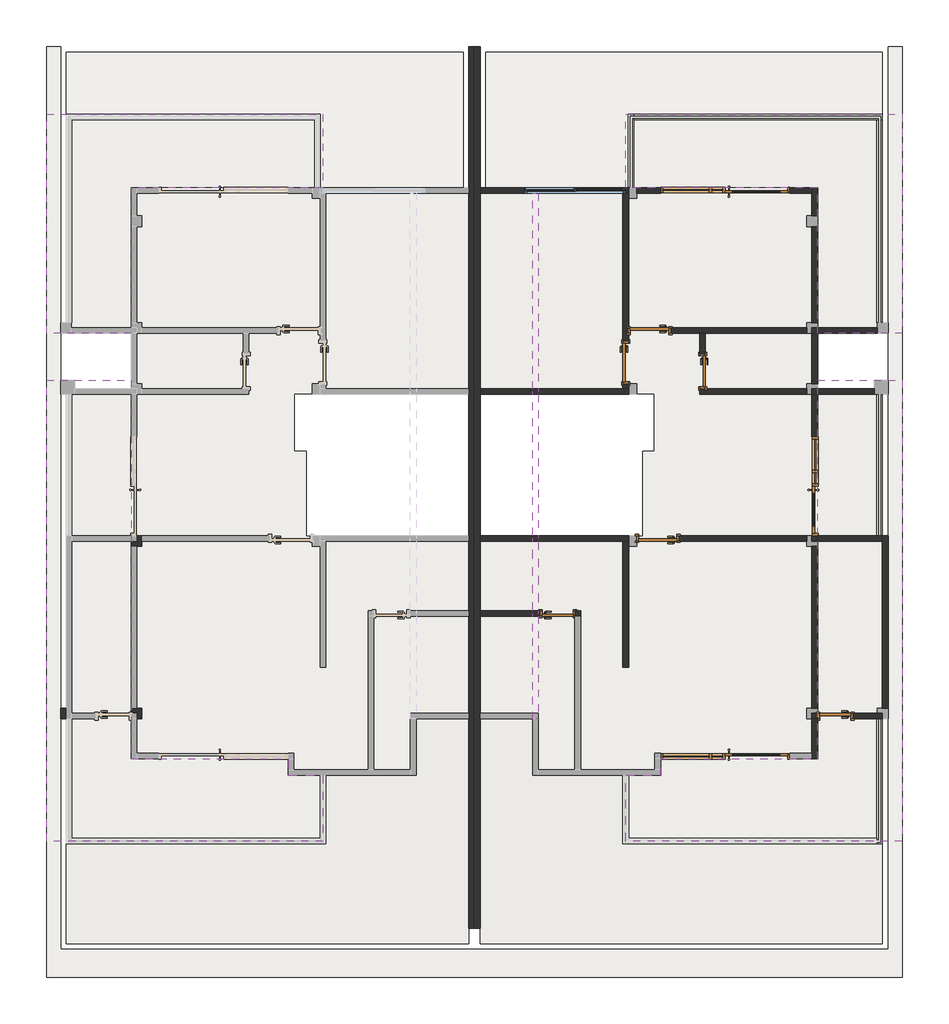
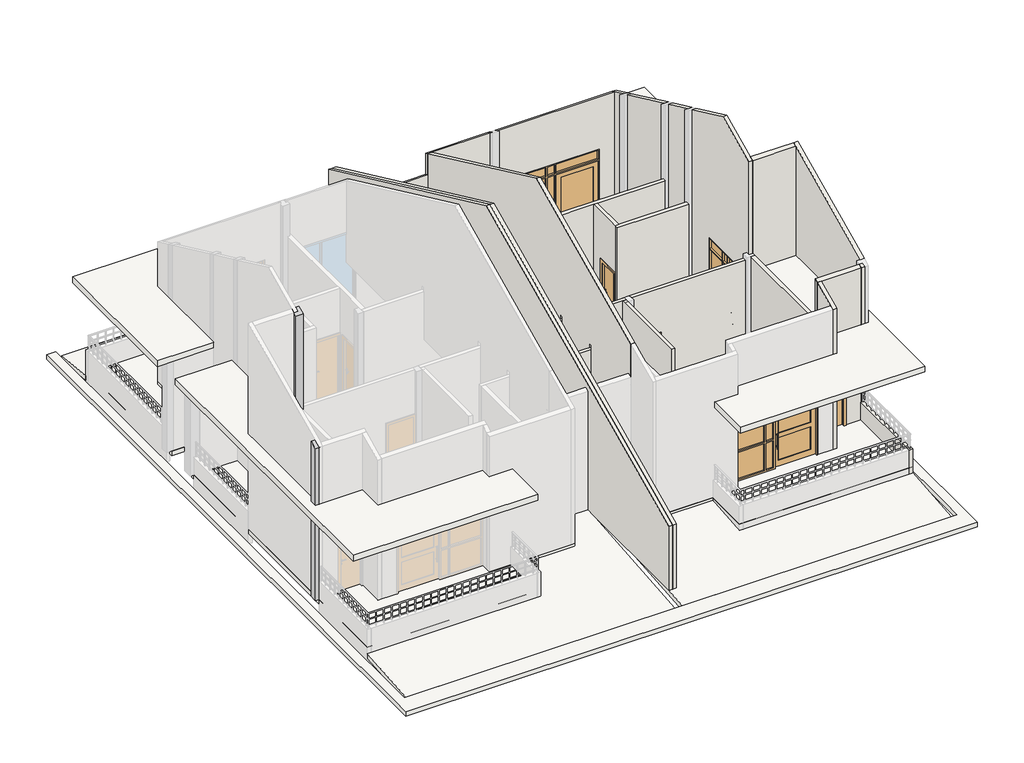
# One storey, part 2 of 6: 30 walls, 11 slabs, 9 doors, 3 columns, 1 window.
"""IFC4 building model written with IfcOpenShell, lengths in millimetres."""

from ifc_helpers import new_model, si_unit, frame, origin, place, context, project, spatial, polyline, outline, extrude, faceted_brep, transform, mapped, element, save
from components import m1_178dd28f, m1_b2f3dea5, m3_20c00246, m3_ef5b271f, mlc4_2eb1c427, mlc4_21794f08, mlc5_b93d954c, c3_0408065b

model = new_model("IFC4")

# Units and contexts
model_context = context("Model", 3, world=origin())
ifc_project = project(units=[si_unit("LENGTHUNIT", "METRE", prefix="MILLI")], contexts=[model_context])

# Site, building, storey
site = spatial("IfcSite", under=ifc_project)
building = spatial("IfcBuilding", under=site)
storey = spatial("IfcBuildingStorey", under=building, Name="标高 2", Elevation=3900.0)

# Columns
placement = place(None, origin())
element("IfcColumn", 1, ObjectType="混凝土 - 矩形 - 柱 : Z2", at=placement, inside=storey, context=model_context, shape_type="SweptSolid", body=[
    extrude(outline(polyline([(-5954.0293904, 2218.7732284), (-5954.0293904, 1988.7732284), (-6184.0293904, 1988.7732284), (-6184.0293904, 2218.7732284), (-5954.0293904, 2218.7732284)])), frame((0.0, 0.0, 3900.0), z_axis=(0.0, 0.0, 1.0), x_axis=(1.0, 0.0, 0.0)), (0.0, 0.0, 1.0), 3750.0),
])
element("IfcColumn", 2, ObjectType="混凝土 - 矩形 - 柱 : Z2", at=placement, inside=storey, context=model_context, shape_type="SweptSolid", body=[
    extrude(outline(polyline([(2218.7732284, 3900.0), (1988.7732284, 3900.0), (1988.7732284, 9008.8623857), (2218.7732284, 9116.1131471), (2218.7732284, 3900.0)])), frame((-7684.0293904, 0.0, 0.0), z_axis=(1.0, 0.0, 0.0), x_axis=(0.0, 1.0, 0.0)), (0.0, 0.0, 1.0), 230.0),
])
element("IfcColumn", 3, ObjectType="混凝土 - 矩形 - 柱 : Z2", at=placement, inside=storey, context=model_context, shape_type="SweptSolid", body=[
    extrude(outline(polyline([(5888.7732284, 3900.0), (5658.7732284, 3900.0), (5658.7732284, 10720.2114911), (5888.7732284, 10827.4622525), (5888.7732284, 3900.0)])), frame((-6184.0293904, 0.0, 0.0), z_axis=(1.0, 0.0, 0.0), x_axis=(0.0, 1.0, 0.0)), (0.0, 0.0, 1.0), 230.0),
])

# Doors
m1_shape = m1_178dd28f(model_context)
element("IfcDoor", 4, ObjectType="单嵌板木门 1 : M1", at=placement, inside=storey, context=model_context, shape_type="MappedRepresentation", body=[
    mapped(m1_shape, transform((4840.9706096, 10248.7732284, 3900.0), x_axis=(-1.0, 0.0, 0.0), y_axis=(0.0, -1.0, 0.0), z_axis=(0.0, 0.0, 1.0))),
])
element("IfcDoor", 5, ObjectType="单嵌板木门 1 : M1", at=placement, inside=storey, context=model_context, shape_type="MappedRepresentation", body=[
    mapped(m1_shape, transform((4335.9706096, 9568.7732284, 3900.0), x_axis=(0.0, -1.0, 0.0), y_axis=(1.0, 0.0, 0.0), z_axis=(0.0, 0.0, 1.0))),
])
m1_2_shape = m1_b2f3dea5(model_context)
element("IfcDoor", 6, ObjectType="单嵌板木门 1 : M1", at=placement, inside=storey, context=model_context, shape_type="MappedRepresentation", body=[
    mapped(m1_2_shape, transform((5015.9706096, 5828.7732284, 3900.0), x_axis=(-1.0, 0.0, 0.0), y_axis=(0.0, -1.0, 0.0), z_axis=(0.0, 0.0, 1.0))),
])
m3_shape = m3_20c00246(model_context)
element("IfcDoor", 7, ObjectType="单嵌板木门 1 : M3", at=placement, inside=storey, context=model_context, shape_type="MappedRepresentation", body=[
    mapped(m3_shape, transform((5970.9706096, 9383.7732284, 3900.0), x_axis=(0.0, -1.0, 0.0), y_axis=(1.0, 0.0, 0.0), z_axis=(0.0, 0.0, 1.0))),
])
m3_2_shape = m3_ef5b271f(model_context)
element("IfcDoor", 8, ObjectType="单嵌板木门 1 : M3", at=placement, inside=storey, context=model_context, shape_type="MappedRepresentation", body=[
    mapped(m3_2_shape, transform((2885.9706096, 4228.7732284, 3900.0), x_axis=(1.0, 0.0, 0.0), y_axis=(0.0, 1.0, 0.0), z_axis=(0.0, 0.0, 1.0))),
])
element("IfcDoor", 9, ObjectType="单嵌板木门 1 : M3", at=placement, inside=storey, context=model_context, shape_type="MappedRepresentation", body=[
    mapped(m3_2_shape, transform((8790.9706096, 2048.7732284, 3900.0), x_axis=(-1.0, 0.0, 0.0), y_axis=(0.0, -1.0, 0.0), z_axis=(0.0, 0.0, 1.0))),
])
mlc4_shape = mlc4_2eb1c427(model_context)
element("IfcDoor", 10, ObjectType="单嵌板连窗玻璃门 1 : MLC4", at=placement, inside=storey, context=model_context, shape_type="MappedRepresentation", body=[
    mapped(mlc4_shape, transform((6450.9706096, 1198.7732284, 3900.0), x_axis=(-1.0, 0.0, 0.0), y_axis=(0.0, -1.0, 0.0), z_axis=(0.0, 0.0, 1.0))),
])
mlc4_2_shape = mlc4_21794f08(model_context)
element("IfcDoor", 11, ObjectType="单嵌板连窗玻璃门 1 : MLC4", at=placement, inside=storey, context=model_context, shape_type="MappedRepresentation", body=[
    mapped(mlc4_2_shape, transform((6450.9706096, 13228.7732284, 3900.0), x_axis=(-1.0, 0.0, 0.0), y_axis=(0.0, -1.0, 0.0), z_axis=(0.0, 0.0, 1.0))),
])
mlc5_shape = mlc5_b93d954c(model_context)
element("IfcDoor", 12, ObjectType="单嵌板连窗玻璃门 1 : MLC5", at=placement, inside=storey, context=model_context, shape_type="MappedRepresentation", body=[
    mapped(mlc5_shape, transform((8355.9706096, 6938.7732284, 3900.0), x_axis=(0.0, 1.0, 0.0), y_axis=(-1.0, 0.0, 0.0), z_axis=(0.0, 0.0, 1.0))),
])

# Slabs
element("IfcSlab", 13, ObjectType="常规 - 150mm", at=placement, inside=storey, context=model_context, shape_type="SweptSolid", body=[
    extrude(outline(polyline([(-7684.0293904, -2911.2267716), (9915.9706096, -2911.2267716), (9915.9706096, 16288.7732284), (10215.9706096, 16288.7732284), (10215.9706096, -3511.2267716), (-7984.0293904, -3511.2267716), (-7984.0293904, 16288.7732284), (-7684.0293904, 16288.7732284), (-7684.0293904, -2911.2267716)])), frame((0.0, 0.0, 3450.0), z_axis=(0.0, 0.0, 1.0), x_axis=(1.0, 0.0, 0.0)), (0.0, 0.0, 1.0), 150.0),
])
element("IfcSlab", 14, ObjectType="常规 - 150mm", at=placement, inside=storey, context=model_context, shape_type="SweptSolid", body=[
    extrude(outline(polyline([(1115.9706096, 13288.7732284), (8415.9706096, 13288.7732284), (8415.9706096, 9003.7732284), (9795.9706096, 9003.7732284), (9795.9706096, -671.2267716), (4275.9706096, -671.2267716), (4275.9706096, 788.7732284), (2355.9706096, 788.7732284), (2355.9706096, 1988.7732284), (1115.9706096, 1988.7732284), (-124.0293904, 1988.7732284), (-124.0293904, 788.7732284), (-2044.0293904, 788.7732284), (-2044.0293904, -671.2267716), (-7564.0293904, -671.2267716), (-7564.0293904, 9003.7732284), (-6184.0293904, 9003.7732284), (-6184.0293904, 13288.7732284), (1115.9706096, 13288.7732284)]), holes=[polyline([(995.9706096, 5888.7732284), (995.9706096, 8888.7732284), (-2704.0293904, 8888.7732284), (-2704.0293904, 7688.7732284), (-2454.0293904, 7688.7732284), (-2454.0293904, 7088.7732284), (-2454.0293904, 5888.7732284), (995.9706096, 5888.7732284)]), polyline([(1235.9706096, 5888.7732284), (4685.9706096, 5888.7732284), (4685.9706096, 7088.7732284), (4685.9706096, 7688.7732284), (4935.9706096, 7688.7732284), (4935.9706096, 8888.7732284), (1235.9706096, 8888.7732284), (1235.9706096, 5888.7732284)])]), frame((0.0, 0.0, 3750.0), z_axis=(0.0, 0.0, 1.0), x_axis=(1.0, 0.0, 0.0)), (0.0, 0.0, 1.0), 150.0),
])
element("IfcSlab", 15, ObjectType="常规 - 150mm", at=placement, inside=storey, context=model_context, shape_type="SweptSolid", body=[
    extrude(outline(polyline([(-2159.0293904, 14848.7732284), (-2159.0293904, 13288.7732284), (-6184.0293904, 13288.7732284), (-6184.0293904, 10308.7732284), (-7454.0293904, 10308.7732284), (-7454.0293904, 10418.7732284), (-7564.0293904, 10418.7732284), (-7564.0293904, 14848.7732284), (-2159.0293904, 14848.7732284)])), frame((0.0, 0.0, 3650.0), z_axis=(0.0, 0.0, 1.0), x_axis=(1.0, 0.0, 0.0)), (0.0, 0.0, 1.0), 150.0),
    extrude(outline(polyline([(4390.9706096, 14848.7732284), (9795.9706096, 14848.7732284), (9795.9706096, 10418.7732284), (9685.9706096, 10418.7732284), (9685.9706096, 10308.7732284), (8415.9706096, 10308.7732284), (8415.9706096, 13288.7732284), (4390.9706096, 13288.7732284), (4390.9706096, 14848.7732284)])), frame((0.0, 0.0, 3650.0), z_axis=(0.0, 0.0, 1.0), x_axis=(1.0, 0.0, 0.0)), (0.0, 0.0, 1.0), 150.0),
])
element("IfcSlab", 16, ObjectType="常规 - 150mm", at=placement, inside=storey, context=model_context, shape_type="Brep", body=[
    faceted_brep([(875.9706096, 16168.7732284, 3349.4270244), (875.9706096, 13288.7732284, 3601.3943753), (-2159.0293904, 13288.7732284, 3601.3943753), (-2159.0293904, 14848.7732284, 3464.9120602), (-7564.0293904, 14848.7732284, 3464.9120602), (-7564.0293904, 16168.7732284, 3349.4270244), (875.9706096, 16168.7732284, 3500.0), (-7564.0293904, 16168.7732284, 3500.0), (-7564.0293904, 14848.7732284, 3615.4850359), (-2159.0293904, 14848.7732284, 3615.4850359), (-2159.0293904, 13288.7732284, 3751.967351), (875.9706096, 13288.7732284, 3751.967351)], [[[0, 1, 2, 3, 4, 5]], [[6, 7, 8, 9, 10, 11]], [[1, 0, 6, 11]], [[2, 1, 11, 10]], [[3, 2, 10, 9]], [[4, 3, 9, 8]], [[5, 4, 8, 7]], [[0, 5, 7, 6]]]),
])
element("IfcSlab", 17, ObjectType="常规 - 150mm", at=placement, inside=storey, context=model_context, shape_type="Brep", body=[
    faceted_brep([(1355.9706096, 16168.7732284, 3349.4270244), (9795.9706096, 16168.7732284, 3349.4270244), (9795.9706096, 14848.7732284, 3464.9120602), (4390.9706096, 14848.7732284, 3464.9120602), (4390.9706096, 13288.7732284, 3601.3943753), (1355.9706096, 13288.7732284, 3601.3943753), (1355.9706096, 16168.7732284, 3500.0), (1355.9706096, 13288.7732284, 3751.967351), (4390.9706096, 13288.7732284, 3751.967351), (4390.9706096, 14848.7732284, 3615.4850359), (9795.9706096, 14848.7732284, 3615.4850359), (9795.9706096, 16168.7732284, 3500.0)], [[[0, 1, 2, 3, 4, 5]], [[6, 7, 8, 9, 10, 11]], [[0, 5, 7, 6]], [[5, 4, 8, 7]], [[4, 3, 9, 8]], [[3, 2, 10, 9]], [[2, 1, 11, 10]], [[1, 0, 6, 11]]]),
])
element("IfcSlab", 18, ObjectType="常规 - 150mm", at=placement, inside=storey, context=model_context, shape_type="Brep", body=[
    faceted_brep([(-7564.0293904, -2791.2267716, 3349.4270244), (-7564.0293904, -671.2267716, 3534.902991), (-2044.0293904, -671.2267716, 3534.902991), (-2044.0293904, 788.7732284, 3662.6364398), (-124.0293904, 788.7732284, 3662.6364398), (-124.0293904, 1988.7732284, 3767.622836), (995.9706096, 1988.7732284, 3767.622836), (995.9706096, -2791.2267716, 3349.4270244), (-7564.0293904, -2791.2267716, 3500.0), (995.9706096, -2791.2267716, 3500.0), (995.9706096, 1988.7732284, 3918.1958117), (-124.0293904, 1988.7732284, 3918.1958117), (-124.0293904, 788.7732284, 3813.2094154), (-2044.0293904, 788.7732284, 3813.2094154), (-2044.0293904, -671.2267716, 3685.4759667), (-7564.0293904, -671.2267716, 3685.4759667)], [[[0, 1, 2, 3, 4, 5, 6, 7]], [[8, 9, 10, 11, 12, 13, 14, 15]], [[1, 0, 8, 15]], [[2, 1, 15, 14]], [[3, 2, 14, 13]], [[4, 3, 13, 12]], [[5, 4, 12, 11]], [[6, 5, 11, 10]], [[7, 6, 10, 9]], [[0, 7, 9, 8]]]),
])
element("IfcSlab", 19, ObjectType="常规 - 150mm", at=placement, inside=storey, context=model_context, shape_type="Brep", body=[
    faceted_brep([(9795.9706096, -2791.2267716, 3349.4270244), (1235.9706096, -2791.2267716, 3349.4270244), (1235.9706096, 1988.7732284, 3767.622836), (2355.9706096, 1988.7732284, 3767.622836), (2355.9706096, 788.7732284, 3662.6364398), (4275.9706096, 788.7732284, 3662.6364398), (4275.9706096, -671.2267716, 3534.902991), (9795.9706096, -671.2267716, 3534.902991), (9795.9706096, -2791.2267716, 3500.0), (9795.9706096, -671.2267716, 3685.4759667), (4275.9706096, -671.2267716, 3685.4759667), (4275.9706096, 788.7732284, 3813.2094154), (2355.9706096, 788.7732284, 3813.2094154), (2355.9706096, 1988.7732284, 3918.1958117), (1235.9706096, 1988.7732284, 3918.1958117), (1235.9706096, -2791.2267716, 3500.0)], [[[0, 1, 2, 3, 4, 5, 6, 7]], [[8, 9, 10, 11, 12, 13, 14, 15]], [[0, 7, 9, 8]], [[7, 6, 10, 9]], [[6, 5, 11, 10]], [[5, 4, 12, 11]], [[4, 3, 13, 12]], [[3, 2, 14, 13]], [[2, 1, 15, 14]], [[1, 0, 8, 15]]]),
])
element("IfcSlab", 20, ObjectType="常规 - 200mm", at=placement, inside=storey, context=model_context, shape_type="SweptSolid", body=[
    extrude(outline(polyline([(-2104.0293904, 14848.7732284), (-2104.0293904, 13288.7732284), (-6184.0293904, 13288.7732284), (-6184.0293904, 10188.7732284), (-7984.0293904, 10188.7732284), (-7984.0293904, 14848.7732284), (-2104.0293904, 14848.7732284)])), frame((0.0, 0.0, 6900.0), z_axis=(0.0, 0.0, 1.0), x_axis=(1.0, 0.0, 0.0)), (0.0, 0.0, 1.0), 200.0),
])
element("IfcSlab", 21, ObjectType="常规 - 200mm", at=placement, inside=storey, context=model_context, shape_type="SweptSolid", body=[
    extrude(outline(polyline([(-7984.0293904, 9188.7732284), (-6184.0293904, 9188.7732284), (-6184.0293904, 1138.7732284), (-2844.0293904, 1138.7732284), (-2844.0293904, 788.7732284), (-2104.0293904, 788.7732284), (-2104.0293904, -611.2267716), (-7984.0293904, -611.2267716), (-7984.0293904, 9188.7732284)])), frame((0.0, 0.0, 6900.0), z_axis=(0.0, 0.0, 1.0), x_axis=(1.0, 0.0, 0.0)), (0.0, 0.0, 1.0), 200.0),
])
element("IfcSlab", 22, ObjectType="常规 - 200mm", at=placement, inside=storey, context=model_context, shape_type="SweptSolid", body=[
    extrude(outline(polyline([(4335.9706096, 14848.7732284), (10215.9706096, 14848.7732284), (10215.9706096, 10188.7732284), (8415.9706096, 10188.7732284), (8415.9706096, 13288.7732284), (4335.9706096, 13288.7732284), (4335.9706096, 14848.7732284)])), frame((0.0, 0.0, 6900.0), z_axis=(0.0, 0.0, 1.0), x_axis=(1.0, 0.0, 0.0)), (0.0, 0.0, 1.0), 200.0),
])
element("IfcSlab", 23, ObjectType="常规 - 200mm", at=placement, inside=storey, context=model_context, shape_type="SweptSolid", body=[
    extrude(outline(polyline([(10215.9706096, 9188.7732284), (10215.9706096, -611.2267716), (4335.9706096, -611.2267716), (4335.9706096, 788.7732284), (5075.9706096, 788.7732284), (5075.9706096, 1138.7732284), (8415.9706096, 1138.7732284), (8415.9706096, 9188.7732284), (10215.9706096, 9188.7732284)])), frame((0.0, 0.0, 6900.0), z_axis=(0.0, 0.0, 1.0), x_axis=(1.0, 0.0, 0.0)), (0.0, 0.0, 1.0), 200.0),
])

# Walls
element("IfcWall", 24, ObjectType="墙", at=placement, inside=storey, context=model_context, shape_type="Brep", body=[
    faceted_brep([(1235.9706096, -2461.2267716, 3900.0), (1235.9706096, 1988.7732284, 3900.0), (1235.9706096, 2108.7732284, 3900.0), (1235.9706096, 4168.7732284, 3900.0), (1235.9706096, 4288.7732284, 3900.0), (1235.9706096, 5768.7732284, 3900.0), (1235.9706096, 5888.7732284, 3900.0), (1235.9706096, 8888.7732284, 3900.0), (1235.9706096, 9008.7732284, 3900.0), (1235.9706096, 13168.7732284, 3900.0), (1235.9706096, 13288.7732284, 3900.0), (1235.9706096, 16288.7732284, 3900.0), (1235.9706096, 16288.7732284, 6697.0), (1235.9706096, 7602.1599499, 10747.6342952), (1235.9706096, -2461.2267716, 6055.0), (1115.9706096, -2461.2267716, 3900.0), (1115.9706096, -2461.2267716, 6055.0), (1115.9706096, 7602.1599499, 10747.6342952), (1115.9706096, 16288.7732284, 6697.0), (1115.9706096, 16288.7732284, 3900.0)], [[[0, 1, 2, 3, 4, 5, 6, 7, 8, 9, 10, 11, 12, 13, 14]], [[15, 16, 17, 18, 19]], [[11, 10, 9, 8, 7, 6, 5, 4, 3, 2, 1, 0, 15, 19]], [[12, 11, 19, 18]], [[0, 14, 16, 15]], [[13, 12, 18, 17]], [[14, 13, 17, 16]]]),
])
element("IfcWall", 25, ObjectType="墙", at=placement, inside=storey, context=model_context, shape_type="Brep", body=[
    faceted_brep([(8295.9706096, 10188.7732284, 3900.0), (8415.9706096, 10188.7732284, 3900.0), (9685.9706096, 10188.7732284, 3900.0), (9685.9706096, 10188.7732284, 6900.0), (8415.9706096, 10188.7732284, 6900.0), (8295.9706096, 10188.7732284, 6900.0), (8295.9706096, 10308.7732284, 3900.0), (8295.9706096, 10308.7732284, 6900.0), (8415.9706096, 10308.7732284, 6900.0), (9685.9706096, 10308.7732284, 6900.0), (9685.9706096, 10308.7732284, 3900.0)], [[[0, 1, 2, 3, 4, 5]], [[6, 7, 8, 9, 10]], [[2, 1, 0, 6, 10]], [[3, 2, 10, 9]], [[0, 5, 7, 6]], [[5, 4, 8, 7]], [[4, 3, 9, 8]]]),
])
element("IfcWall", 26, ObjectType="墙", at=placement, inside=storey, context=model_context, shape_type="SweptSolid", body=[
    extrude(outline(polyline([(10418.7732284, 3900.0), (10418.7732284, 9927.4884723), (12458.7732284, 8976.2208496), (12458.7732284, 3900.0), (10418.7732284, 3900.0)])), frame((8295.9706096, 0.0, 0.0), z_axis=(1.0, 0.0, 0.0), x_axis=(0.0, 1.0, 0.0)), (0.0, 0.0, 1.0), 120.0),
])
element("IfcWall", 27, ObjectType="墙", at=placement, inside=storey, context=model_context, shape_type="Brep", body=[
    faceted_brep([(8415.9706096, 12688.7732284, 3900.0), (8415.9706096, 13288.7732284, 3900.0), (8415.9706096, 13288.7732284, 8589.1854934), (8415.9706096, 12688.7732284, 8868.9700883), (8295.9706096, 12688.7732284, 3900.0), (8295.9706096, 12688.7732284, 8868.9700883), (8295.9706096, 13168.7732284, 8645.1424123), (8295.9706096, 13288.7732284, 8589.1854934), (8295.9706096, 13288.7732284, 3900.0), (8295.9706096, 13168.7732284, 3900.0)], [[[0, 1, 2, 3]], [[4, 5, 6, 7, 8, 9]], [[1, 0, 4, 9, 8]], [[0, 3, 5, 4]], [[2, 1, 8, 7]], [[3, 2, 7, 6, 5]]]),
])
element("IfcWall", 28, ObjectType="墙", at=placement, inside=storey, context=model_context, shape_type="Brep", body=[
    faceted_brep([(4565.9706096, 13288.7732284, 3900.0), (4565.9706096, 13288.7732284, 8589.1854934), (8295.9706096, 13288.7732284, 8589.1854934), (8295.9706096, 13288.7732284, 3900.0), (7825.9706096, 13288.7732284, 3900.0), (7825.9706096, 13288.7732284, 6900.0), (5075.9706096, 13288.7732284, 6900.0), (5075.9706096, 13288.7732284, 3900.0), (4565.9706096, 13168.7732284, 8645.1424123), (4565.9706096, 13168.7732284, 3900.0), (5075.9706096, 13168.7732284, 3900.0), (5075.9706096, 13168.7732284, 6900.0), (7825.9706096, 13168.7732284, 6900.0), (7825.9706096, 13168.7732284, 3900.0), (8295.9706096, 13168.7732284, 3900.0), (8295.9706096, 13168.7732284, 8645.1424123)], [[[0, 1, 2, 3, 4, 5, 6, 7]], [[8, 9, 10, 11, 12, 13, 14, 15]], [[9, 0, 7, 10]], [[3, 14, 13, 4]], [[1, 0, 9, 8]], [[3, 2, 15, 14]], [[6, 11, 10, 7]], [[11, 6, 5, 12]], [[12, 5, 4, 13]], [[2, 1, 8, 15]]]),
])
element("IfcWall", 29, ObjectType="墙", at=placement, inside=storey, context=model_context, shape_type="Brep", body=[
    faceted_brep([(4395.9706096, 13288.7732284, 3900.0), (4335.9706096, 13288.7732284, 3900.0), (4335.9706096, 13288.7732284, 6900.0), (2175.9706096, 13288.7732284, 6900.0), (2175.9706096, 13288.7732284, 3900.0), (1235.9706096, 13288.7732284, 3900.0), (1235.9706096, 13288.7732284, 7873.0347098), (2355.9706096, 13288.7732284, 7873.0347098), (2355.9706096, 13288.7732284, 8589.1854934), (4395.9706096, 13288.7732284, 8589.1854934), (4335.9706096, 13168.7732284, 6900.0), (4335.9706096, 13168.7732284, 3900.0), (4395.9706096, 13168.7732284, 3900.0), (4395.9706096, 13168.7732284, 7500.0), (4395.9706096, 13168.7732284, 8645.1424123), (2475.9706096, 13168.7732284, 8645.1424123), (2355.9706096, 13168.7732284, 8645.1424123), (2355.9706096, 13168.7732284, 7928.9916288), (1235.9706096, 13168.7732284, 7928.9916288), (1235.9706096, 13168.7732284, 3900.0), (2175.9706096, 13168.7732284, 3900.0), (2175.9706096, 13168.7732284, 6900.0)], [[[0, 1, 2, 3, 4, 5, 6, 7, 8, 9]], [[10, 11, 12, 13, 14, 15, 16, 17, 18, 19, 20, 21]], [[20, 19, 5, 4]], [[12, 11, 1, 0]], [[0, 9, 14, 13, 12]], [[6, 5, 19, 18]], [[4, 3, 21, 20]], [[2, 1, 11, 10]], [[3, 2, 10, 21]], [[9, 8, 16, 15, 14]], [[16, 8, 7, 17]], [[7, 6, 18, 17]]]),
])
element("IfcWall", 30, ObjectType="墙", at=placement, inside=storey, context=model_context, shape_type="Brep", body=[
    faceted_brep([(8295.9706096, 8888.7732284, 3900.0), (8415.9706096, 8888.7732284, 3900.0), (9615.9706096, 8888.7732284, 3900.0), (9615.9706096, 8888.7732284, 6900.0), (8415.9706096, 8888.7732284, 6900.0), (8295.9706096, 8888.7732284, 6900.0), (8295.9706096, 9008.7732284, 3900.0), (8295.9706096, 9008.7732284, 6900.0), (8415.9706096, 9008.7732284, 6900.0), (9615.9706096, 9008.7732284, 6900.0), (9615.9706096, 9008.7732284, 3900.0)], [[[0, 1, 2, 3, 4, 5]], [[6, 7, 8, 9, 10]], [[2, 1, 0, 6, 10]], [[3, 2, 10, 9]], [[0, 5, 7, 6]], [[5, 4, 8, 7]], [[4, 3, 9, 8]]]),
])
element("IfcWall", 31, ObjectType="墙", at=placement, inside=storey, context=model_context, shape_type="Brep", body=[
    faceted_brep([(8415.9706096, 8888.7732284, 3900.0), (8415.9706096, 8888.7732284, 10640.9391892), (8415.9706096, 7188.7732284, 11433.6622081), (8415.9706096, 5888.7732284, 10827.4622525), (8415.9706096, 5768.7732284, 10771.5053335), (8415.9706096, 5768.7732284, 3900.0), (8415.9706096, 5888.7732284, 3900.0), (8415.9706096, 5888.7732284, 6900.0), (8415.9706096, 7988.7732284, 6900.0), (8415.9706096, 7988.7732284, 3900.0), (8295.9706096, 8888.7732284, 10640.9391892), (8295.9706096, 8888.7732284, 6900.0), (8295.9706096, 8888.7732284, 3900.0), (8295.9706096, 7988.7732284, 3900.0), (8295.9706096, 7988.7732284, 6900.0), (8295.9706096, 5888.7732284, 6900.0), (8295.9706096, 5888.7732284, 3900.0), (8295.9706096, 5768.7732284, 3900.0), (8295.9706096, 5768.7732284, 10771.5053335), (8295.9706096, 7188.7732284, 11433.6622081)], [[[0, 1, 2, 3, 4, 5, 6, 7, 8, 9]], [[10, 11, 12, 13, 14, 15, 16, 17, 18, 19]], [[12, 0, 9, 13]], [[5, 17, 16, 6]], [[1, 0, 12, 11, 10]], [[5, 4, 18, 17]], [[8, 14, 13, 9]], [[14, 8, 7, 15]], [[15, 7, 6, 16]], [[18, 4, 3, 2, 19]], [[1, 10, 19, 2]]]),
])
element("IfcWall", 32, ObjectType="墙", at=placement, inside=storey, context=model_context, shape_type="Brep", body=[
    faceted_brep([(9915.9706096, 2218.7732284, 3900.0), (9915.9706096, 5888.7732284, 3900.0), (9915.9706096, 5888.7732284, 10827.4622525), (9915.9706096, 2218.7732284, 9116.1131471), (9795.9706096, 2218.7732284, 3900.0), (9795.9706096, 2218.7732284, 9116.1131471), (9795.9706096, 5768.7732284, 10771.5053335), (9795.9706096, 5888.7732284, 10827.4622525), (9795.9706096, 5888.7732284, 3900.0), (9795.9706096, 5768.7732284, 3900.0)], [[[0, 1, 2, 3]], [[4, 5, 6, 7, 8, 9]], [[1, 0, 4, 9, 8]], [[0, 3, 5, 4]], [[2, 1, 8, 7]], [[3, 2, 7, 6, 5]]]),
])
element("IfcWall", 33, ObjectType="墙", at=placement, inside=storey, context=model_context, shape_type="Brep", body=[
    faceted_brep([(9795.9706096, 5888.7732284, 3900.0), (8415.9706096, 5888.7732284, 3900.0), (8415.9706096, 5888.7732284, 6900.0), (8415.9706096, 5888.7732284, 10827.4622525), (9795.9706096, 5888.7732284, 10827.4622525), (9795.9706096, 5888.7732284, 4500.0), (9795.9706096, 5768.7732284, 3900.0), (9795.9706096, 5768.7732284, 10771.5053335), (8415.9706096, 5768.7732284, 10771.5053335), (8415.9706096, 5768.7732284, 3900.0)], [[[0, 1, 2, 3, 4, 5]], [[6, 7, 8, 9]], [[1, 0, 6, 9]], [[0, 5, 4, 7, 6]], [[3, 2, 1, 9, 8]], [[4, 3, 8, 7]]]),
])
element("IfcWall", 34, ObjectType="墙", at=placement, inside=storey, context=model_context, shape_type="Brep", body=[
    faceted_brep([(8295.9706096, 1988.7732284, 9008.8623857), (8295.9706096, 1988.7732284, 3900.0), (8415.9706096, 1988.7732284, 3900.0), (8415.9706096, 1988.7732284, 5900.0), (9165.9706096, 1988.7732284, 5900.0), (9165.9706096, 1988.7732284, 3900.0), (9795.9706096, 1988.7732284, 3900.0), (9795.9706096, 1988.7732284, 4500.0), (9795.9706096, 1988.7732284, 9008.8623857), (8415.9706096, 1988.7732284, 9008.8623857), (8295.9706096, 2108.7732284, 3900.0), (8295.9706096, 2108.7732284, 9064.8193047), (9795.9706096, 2108.7732284, 9064.8193047), (9795.9706096, 2108.7732284, 3900.0), (9165.9706096, 2108.7732284, 3900.0), (9165.9706096, 2108.7732284, 5900.0), (8415.9706096, 2108.7732284, 5900.0), (8415.9706096, 2108.7732284, 3900.0)], [[[0, 1, 2, 3, 4, 5, 6, 7, 8, 9]], [[10, 11, 12, 13, 14, 15, 16, 17]], [[1, 10, 17, 2]], [[13, 6, 5, 14]], [[1, 0, 11, 10]], [[8, 7, 6, 13, 12]], [[16, 3, 2, 17]], [[3, 16, 15, 4]], [[4, 15, 14, 5]], [[0, 9, 8, 12, 11]]]),
])
element("IfcWall", 35, ObjectType="墙", at=placement, inside=storey, context=model_context, shape_type="Brep", body=[
    faceted_brep([(8415.9706096, 1138.7732284, 3900.0), (8415.9706096, 1988.7732284, 3900.0), (8415.9706096, 1988.7732284, 9008.8623857), (8415.9706096, 1138.7732284, 8612.5008763), (8295.9706096, 1138.7732284, 3900.0), (8295.9706096, 1138.7732284, 8612.5008763), (8295.9706096, 1258.7732284, 8668.4577952), (8295.9706096, 1988.7732284, 9008.8623857), (8295.9706096, 1988.7732284, 3900.0), (8295.9706096, 1258.7732284, 3900.0)], [[[0, 1, 2, 3]], [[4, 5, 6, 7, 8, 9]], [[1, 0, 4, 9, 8]], [[2, 1, 8, 7]], [[0, 3, 5, 4]], [[3, 2, 7, 6, 5]]]),
])
element("IfcWall", 36, ObjectType="墙", at=placement, inside=storey, context=model_context, shape_type="Brep", body=[
    faceted_brep([(3260.9706096, 4168.7732284, 3900.0), (3375.9706096, 4168.7732284, 3900.0), (3375.9706096, 4168.7732284, 7500.0), (3255.9706096, 4168.7732284, 7500.0), (1235.9706096, 4168.7732284, 7500.0), (1235.9706096, 4168.7732284, 3900.0), (2510.9706096, 4168.7732284, 3900.0), (2510.9706096, 4168.7732284, 5900.0), (3260.9706096, 4168.7732284, 5900.0), (3375.9706096, 4288.7732284, 3900.0), (3260.9706096, 4288.7732284, 3900.0), (3260.9706096, 4288.7732284, 5900.0), (2510.9706096, 4288.7732284, 5900.0), (2510.9706096, 4288.7732284, 3900.0), (1235.9706096, 4288.7732284, 3900.0), (1235.9706096, 4288.7732284, 7500.0), (3375.9706096, 4288.7732284, 7500.0)], [[[0, 1, 2, 3, 4, 5, 6, 7, 8]], [[9, 10, 11, 12, 13, 14, 15, 16]], [[9, 1, 0, 10]], [[5, 14, 13, 6]], [[1, 9, 16, 2]], [[14, 5, 4, 15]], [[8, 11, 10, 0]], [[11, 8, 7, 12]], [[12, 7, 6, 13]], [[4, 3, 2, 16, 15]]]),
])
element("IfcWall", 37, ObjectType="墙", at=placement, inside=storey, context=model_context, shape_type="SweptSolid", body=[
    extrude(outline(polyline([(8415.9706096, 5658.7732284), (8415.9706096, 2218.7732284), (8295.9706096, 2218.7732284), (8295.9706096, 5658.7732284), (8415.9706096, 5658.7732284)])), frame((0.0, 0.0, 3900.0), z_axis=(0.0, 0.0, 1.0), x_axis=(1.0, 0.0, 0.0)), (0.0, 0.0, 1.0), 3750.0),
])
element("IfcWall", 38, ObjectType="墙", at=placement, inside=storey, context=model_context, shape_type="SweptSolid", body=[
    extrude(outline(polyline([(3900.0, 5465.9706096), (3900.0, 8185.9706096), (7500.0, 8185.9706096), (7500.0, 4565.9706096), (6000.0, 4565.9706096), (6000.0, 5465.9706096), (3900.0, 5465.9706096)])), frame((0.0, 5768.7732284, 0.0), z_axis=(0.0, 1.0, 0.0), x_axis=(0.0, 0.0, 1.0)), (0.0, 0.0, 1.0), 120.0),
])
element("IfcWall", 39, ObjectType="墙", at=placement, inside=storey, context=model_context, shape_type="Brep", body=[
    faceted_brep([(4395.9706096, 5888.7732284, 3900.0), (1235.9706096, 5888.7732284, 3900.0), (1235.9706096, 5888.7732284, 7500.0), (4395.9706096, 5888.7732284, 7500.0), (1235.9706096, 5768.7732284, 3900.0), (4275.9706096, 5768.7732284, 3900.0), (4395.9706096, 5768.7732284, 3900.0), (4395.9706096, 5768.7732284, 7500.0), (4275.9706096, 5768.7732284, 7500.0), (1235.9706096, 5768.7732284, 7500.0)], [[[0, 1, 2, 3]], [[4, 5, 6, 7, 8, 9]], [[1, 0, 6, 5, 4]], [[6, 0, 3, 7]], [[1, 4, 9, 2]], [[3, 2, 9, 8, 7]]]),
])
element("IfcWall", 40, ObjectType="墙", at=placement, inside=storey, context=model_context, shape_type="Brep", body=[
    faceted_brep([(1235.9706096, 8888.7732284, 3900.0), (4395.9706096, 8888.7732284, 3900.0), (4395.9706096, 8888.7732284, 7500.0), (1235.9706096, 8888.7732284, 7500.0), (4395.9706096, 9008.7732284, 3900.0), (4275.9706096, 9008.7732284, 3900.0), (1235.9706096, 9008.7732284, 3900.0), (1235.9706096, 9008.7732284, 7500.0), (4275.9706096, 9008.7732284, 7500.0), (4395.9706096, 9008.7732284, 7500.0)], [[[0, 1, 2, 3]], [[4, 5, 6, 7, 8, 9]], [[1, 0, 6, 5, 4]], [[1, 4, 9, 2]], [[6, 0, 3, 7]], [[3, 2, 9, 8, 7]]]),
])
element("IfcWall", 41, ObjectType="墙", at=placement, inside=storey, context=model_context, shape_type="Brep", body=[
    faceted_brep([(5910.9706096, 8888.7732284, 3900.0), (8185.9706096, 8888.7732284, 3900.0), (8185.9706096, 8888.7732284, 7500.0), (5910.9706096, 8888.7732284, 7500.0), (8185.9706096, 9008.7732284, 3900.0), (5910.9706096, 9008.7732284, 3900.0), (5910.9706096, 9008.7732284, 5900.0), (5910.9706096, 9008.7732284, 7500.0), (6030.9706096, 9008.7732284, 7500.0), (8185.9706096, 9008.7732284, 7500.0)], [[[0, 1, 2, 3]], [[4, 5, 6, 7, 8, 9]], [[1, 0, 5, 4]], [[1, 4, 9, 2]], [[5, 0, 3, 7, 6]], [[3, 2, 9, 8, 7]]]),
])
element("IfcWall", 42, ObjectType="墙", at=placement, inside=storey, context=model_context, shape_type="SweptSolid", body=[
    extrude(outline(polyline([(4275.9706096, 3088.7732284), (4275.9706096, 5768.7732284), (4395.9706096, 5768.7732284), (4395.9706096, 3088.7732284), (4275.9706096, 3088.7732284)])), frame((0.0, 0.0, 3900.0), z_axis=(0.0, 0.0, 1.0), x_axis=(1.0, 0.0, 0.0)), (0.0, 0.0, 1.0), 3600.0),
])
element("IfcWall", 43, ObjectType="墙", at=placement, inside=storey, context=model_context, shape_type="Brep", body=[
    faceted_brep([(4395.9706096, 9008.7732284, 3900.0), (4395.9706096, 9118.7732284, 3900.0), (4395.9706096, 9118.7732284, 6000.0), (4395.9706096, 10018.7732284, 6000.0), (4395.9706096, 10018.7732284, 3900.0), (4395.9706096, 10188.7732284, 3900.0), (4395.9706096, 10188.7732284, 6000.0), (4395.9706096, 10308.7732284, 6000.0), (4395.9706096, 10308.7732284, 3900.0), (4395.9706096, 13168.7732284, 3900.0), (4395.9706096, 13168.7732284, 7500.0), (4395.9706096, 10308.7732284, 7500.0), (4395.9706096, 10188.7732284, 7500.0), (4395.9706096, 9008.7732284, 7500.0), (4275.9706096, 9118.7732284, 3900.0), (4275.9706096, 9008.7732284, 3900.0), (4275.9706096, 9008.7732284, 7500.0), (4275.9706096, 13168.7732284, 7500.0), (4275.9706096, 13168.7732284, 3900.0), (4275.9706096, 10018.7732284, 3900.0), (4275.9706096, 10018.7732284, 6000.0), (4275.9706096, 9118.7732284, 6000.0), (4390.9706096, 10308.7732284, 3900.0), (4390.9706096, 10188.7732284, 3900.0), (4390.9706096, 10308.7732284, 6000.0), (4390.9706096, 10188.7732284, 6000.0)], [[[0, 1, 2, 3, 4, 5, 6, 7, 8, 9, 10, 11, 12, 13]], [[14, 15, 16, 17, 18, 19, 20, 21]], [[18, 9, 8, 22, 23, 5, 4, 19]], [[0, 15, 14, 1]], [[15, 0, 13, 16]], [[9, 18, 17, 10]], [[21, 2, 1, 14]], [[2, 21, 20, 3]], [[3, 20, 19, 4]], [[24, 22, 8, 7]], [[23, 25, 6, 5]], [[22, 24, 25, 23]], [[25, 24, 7, 6]], [[13, 12, 11, 10, 17, 16]]]),
])
element("IfcWall", 44, ObjectType="墙", at=placement, inside=storey, context=model_context, shape_type="Brep", body=[
    faceted_brep([(5290.9706096, 10188.7732284, 3900.0), (5910.9706096, 10188.7732284, 3900.0), (6030.9706096, 10188.7732284, 3900.0), (8185.9706096, 10188.7732284, 3900.0), (8185.9706096, 10188.7732284, 7500.0), (6030.9706096, 10188.7732284, 7500.0), (5910.9706096, 10188.7732284, 7500.0), (4395.9706096, 10188.7732284, 7500.0), (4395.9706096, 10188.7732284, 6000.0), (5290.9706096, 10188.7732284, 6000.0), (8185.9706096, 10308.7732284, 3900.0), (5290.9706096, 10308.7732284, 3900.0), (5290.9706096, 10308.7732284, 6000.0), (4395.9706096, 10308.7732284, 6000.0), (4395.9706096, 10308.7732284, 7500.0), (8185.9706096, 10308.7732284, 7500.0)], [[[0, 1, 2, 3, 4, 5, 6, 7, 8, 9]], [[10, 11, 12, 13, 14, 15]], [[10, 3, 2, 1, 0, 11]], [[3, 10, 15, 4]], [[13, 8, 7, 14]], [[12, 9, 8, 13]], [[9, 12, 11, 0]], [[7, 6, 5, 4, 15, 14]]]),
])
element("IfcWall", 45, ObjectType="墙", at=placement, inside=storey, context=model_context, shape_type="SweptSolid", body=[
    extrude(outline(polyline([(10188.7732284, 3900.0), (9758.7732284, 3900.0), (9758.7732284, 5900.0), (9008.7732284, 5900.0), (9008.7732284, 7500.0), (10188.7732284, 7500.0), (10188.7732284, 3900.0)])), frame((5910.9706096, 0.0, 0.0), z_axis=(1.0, 0.0, 0.0), x_axis=(0.0, 1.0, 0.0)), (0.0, 0.0, 1.0), 120.0),
])
element("IfcWall", 46, ObjectType="墙", at=placement, inside=storey, context=model_context, shape_type="Brep", body=[
    faceted_brep([(4510.9706096, 13288.7732284, 4500.0), (4510.9706096, 13288.7732284, 3400.0), (4510.9706096, 14728.7732284, 3400.0), (4510.9706096, 14848.7732284, 3400.0), (4510.9706096, 14848.7732284, 4500.0), (4510.9706096, 14728.7732284, 4500.0), (4390.9706096, 13288.7732284, 3400.0), (4390.9706096, 13288.7732284, 4500.0), (4390.9706096, 14848.7732284, 4500.0), (4390.9706096, 14848.7732284, 3400.0)], [[[0, 1, 2, 3, 4, 5]], [[6, 7, 8, 9]], [[3, 2, 1, 6, 9]], [[0, 5, 4, 8, 7]], [[4, 3, 9, 8]], [[0, 7, 6, 1]]]),
])
element("IfcWall", 47, ObjectType="墙", at=placement, inside=storey, context=model_context, shape_type="Brep", body=[
    faceted_brep([(4510.9706096, 14728.7732284, 3400.0), (9675.9706096, 14728.7732284, 3400.0), (9795.9706096, 14728.7732284, 3400.0), (9795.9706096, 14728.7732284, 4500.0), (9675.9706096, 14728.7732284, 4500.0), (4510.9706096, 14728.7732284, 4500.0), (4510.9706096, 14848.7732284, 3400.0), (4510.9706096, 14848.7732284, 4500.0), (9795.9706096, 14848.7732284, 4500.0), (9795.9706096, 14848.7732284, 3400.0)], [[[0, 1, 2, 3, 4, 5]], [[6, 7, 8, 9]], [[2, 1, 0, 6, 9]], [[5, 4, 3, 8, 7]], [[0, 5, 7, 6]], [[3, 2, 9, 8]]]),
])
element("IfcWall", 48, ObjectType="墙", at=placement, inside=storey, context=model_context, shape_type="SweptSolid", body=[
    extrude(outline(polyline([(9795.9706096, 14728.7732284), (9795.9706096, 10418.7732284), (9675.9706096, 10418.7732284), (9675.9706096, 14728.7732284), (9795.9706096, 14728.7732284)])), frame((0.0, 0.0, 3400.0), z_axis=(0.0, 0.0, 1.0), x_axis=(1.0, 0.0, 0.0)), (0.0, 0.0, 1.0), 1100.0),
])
element("IfcWall", 49, ObjectType="墙", at=placement, inside=storey, context=model_context, shape_type="Brep", body=[
    faceted_brep([(9795.9706096, 5888.7732284, 3400.0), (9795.9706096, 8888.7732284, 3400.0), (9795.9706096, 8888.7732284, 4500.0), (9795.9706096, 5888.7732284, 4500.0), (9795.9706096, 5888.7732284, 3900.0), (9675.9706096, 5888.7732284, 3400.0), (9675.9706096, 5888.7732284, 4500.0), (9675.9706096, 8888.7732284, 4500.0), (9675.9706096, 8888.7732284, 3400.0)], [[[0, 1, 2, 3, 4]], [[5, 6, 7, 8]], [[1, 0, 5, 8]], [[2, 1, 8, 7]], [[3, 2, 7, 6]], [[0, 4, 3, 6, 5]]]),
])
element("IfcWall", 50, ObjectType="墙", at=placement, inside=storey, context=model_context, shape_type="Brep", body=[
    faceted_brep([(9795.9706096, -671.2267716, 3400.0), (9795.9706096, 1988.7732284, 3400.0), (9795.9706096, 1988.7732284, 3900.0), (9795.9706096, 1988.7732284, 4500.0), (9795.9706096, -671.2267716, 4500.0), (9675.9706096, -671.2267716, 3400.0), (9675.9706096, -671.2267716, 4500.0), (9675.9706096, -551.2267716, 4500.0), (9675.9706096, 1988.7732284, 4500.0), (9675.9706096, 1988.7732284, 3400.0), (9675.9706096, -551.2267716, 3400.0)], [[[0, 1, 2, 3, 4]], [[5, 6, 7, 8, 9, 10]], [[1, 0, 5, 10, 9]], [[4, 3, 8, 7, 6]], [[0, 4, 6, 5]], [[3, 2, 1, 9, 8]]]),
])
element("IfcWall", 51, ObjectType="墙", at=placement, inside=storey, context=model_context, shape_type="Brep", body=[
    faceted_brep([(8415.9706096, 9118.7732284, 3900.0), (8415.9706096, 10188.7732284, 3900.0), (8415.9706096, 10188.7732284, 10034.7392336), (8415.9706096, 9118.7732284, 10533.6884279), (8295.9706096, 9118.7732284, 3900.0), (8295.9706096, 9118.7732284, 10533.6884279), (8295.9706096, 10188.7732284, 10034.7392336), (8295.9706096, 10188.7732284, 6900.0), (8295.9706096, 10188.7732284, 3900.0)], [[[0, 1, 2, 3]], [[4, 5, 6, 7, 8]], [[1, 0, 4, 8]], [[0, 3, 5, 4]], [[2, 1, 8, 7, 6]], [[3, 2, 6, 5]]]),
])
element("IfcWall", 52, ObjectType="墙", at=placement, inside=storey, context=model_context, shape_type="Brep", body=[
    faceted_brep([(2355.9706096, 1988.7732284, 5900.0), (2355.9706096, 1988.7732284, 9008.8623857), (2355.9706096, 7188.7732284, 11433.6622081), (2355.9706096, 13168.7732284, 8645.1424123), (2355.9706096, 13168.7732284, 7928.9916288), (2355.9706096, 13168.7732284, 5900.0), (2355.9706096, 9008.7732284, 5900.0), (2355.9706096, 9008.7732284, 7650.0), (2355.9706096, 8888.7732284, 7650.0), (2355.9706096, 8888.7732284, 5900.0), (2355.9706096, 5888.7732284, 5900.0), (2355.9706096, 5888.7732284, 7650.0), (2355.9706096, 5768.7732284, 7650.0), (2355.9706096, 5768.7732284, 5900.0), (2355.9706096, 4288.7732284, 5900.0), (2355.9706096, 4288.7732284, 7650.0), (2355.9706096, 4168.7732284, 7650.0), (2355.9706096, 4168.7732284, 5900.0), (2475.9706096, 1988.7732284, 9008.8623857), (2475.9706096, 1988.7732284, 5900.0), (2475.9706096, 4168.7732284, 5900.0), (2475.9706096, 4168.7732284, 7650.0), (2475.9706096, 4288.7732284, 7650.0), (2475.9706096, 4288.7732284, 5900.0), (2475.9706096, 5768.7732284, 5900.0), (2475.9706096, 5768.7732284, 7650.0), (2475.9706096, 5888.7732284, 7650.0), (2475.9706096, 5888.7732284, 5900.0), (2475.9706096, 8888.7732284, 5900.0), (2475.9706096, 8888.7732284, 7650.0), (2475.9706096, 9008.7732284, 7650.0), (2475.9706096, 9008.7732284, 5900.0), (2475.9706096, 13168.7732284, 5900.0), (2475.9706096, 13168.7732284, 8645.1424123), (2475.9706096, 7188.7732284, 11433.6622081)], [[[0, 1, 2, 3, 4, 5, 6, 7, 8, 9, 10, 11, 12, 13, 14, 15, 16, 17]], [[18, 19, 20, 21, 22, 23, 24, 25, 26, 27, 28, 29, 30, 31, 32, 33, 34]], [[19, 0, 17, 20]], [[5, 32, 31, 6]], [[23, 14, 13, 24]], [[27, 10, 9, 28]], [[1, 0, 19, 18]], [[5, 4, 3, 33, 32]], [[16, 21, 20, 17]], [[22, 15, 14, 23]], [[21, 16, 15, 22]], [[26, 11, 10, 27]], [[12, 25, 24, 13]], [[11, 26, 25, 12]], [[8, 29, 28, 9]], [[30, 7, 6, 31]], [[29, 8, 7, 30]], [[33, 3, 2, 34]], [[1, 18, 34, 2]]]),
])
element("IfcWall", 53, ObjectType="墙", at=placement, inside=storey, context=model_context, shape_type="Brep", body=[
    faceted_brep([(1115.9706096, -2461.2267716, 3900.0), (1115.9706096, 16288.7732284, 3900.0), (1115.9706096, 16288.7732284, 6697.0), (1115.9706096, 7602.1599499, 10747.6342952), (1115.9706096, -2461.2267716, 6055.0), (995.9706096, -2461.2267716, 3900.0), (995.9706096, -2461.2267716, 6055.0), (995.9706096, 7602.1599499, 10747.6342952), (995.9706096, 16288.7732284, 6697.0), (995.9706096, 16288.7732284, 3900.0), (995.9706096, 13288.7732284, 3900.0), (995.9706096, 13168.7732284, 3900.0), (995.9706096, 9008.7732284, 3900.0), (995.9706096, 8888.7732284, 3900.0), (995.9706096, 5888.7732284, 3900.0), (995.9706096, 5768.7732284, 3900.0), (995.9706096, 4288.7732284, 3900.0), (995.9706096, 4168.7732284, 3900.0), (995.9706096, 2108.7732284, 3900.0), (995.9706096, 1988.7732284, 3900.0)], [[[0, 1, 2, 3, 4]], [[5, 6, 7, 8, 9, 10, 11, 12, 13, 14, 15, 16, 17, 18, 19]], [[1, 0, 5, 19, 18, 17, 16, 15, 14, 13, 12, 11, 10, 9]], [[2, 1, 9, 8]], [[0, 4, 6, 5]], [[3, 2, 8, 7]], [[4, 3, 7, 6]]]),
])

# Window
c3_shape = c3_0408065b(model_context)
element("IfcWindow", 54, ObjectType="推拉窗6 : C3", at=placement, inside=storey, context=model_context, shape_type="MappedRepresentation", body=[
    mapped(c3_shape, transform((3265.4956096, 13295.6466659, 3900.0), x_axis=(-1.0, 0.0, 0.0), y_axis=(0.0, -1.0, 0.0), z_axis=(0.0, 0.0, 1.0))),
])

save(model, "model.ifc")
